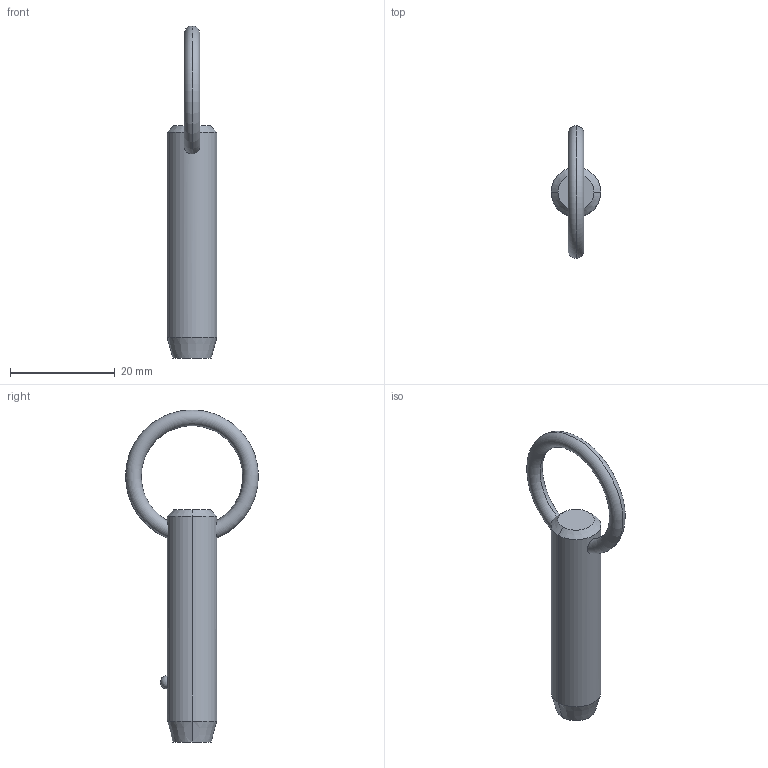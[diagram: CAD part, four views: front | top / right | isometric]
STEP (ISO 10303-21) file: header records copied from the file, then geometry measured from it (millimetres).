
FILE_DESCRIPTION (( 'STEP AP203' ), '1' );
FILE_NAME ('P1250.037-100.step', '2019-07-29T19:59:07', ( '' ), ( '' ), 'SwSTEP 2.0', 'SolidWorks 2017', '' );
FILE_SCHEMA (( 'CONFIG_CONTROL_DESIGN' ));
Length unit declared in the file: millimetre
Products named in the file (1): P1250.037-100
Bounding box: 9.52 x 25.39 x 63.5 mm (x, y, z)
Volume: 3515.1 mm3; surface area: 1971.6 mm2
Topology: 1 solids, 1 shells, 12 faces, 28 edges, 17 vertices
Faces by surface type: cone 4, torus 2, sphere 2, cylinder 2, plane 2
Entity records: 523 total; most frequent: CARTESIAN_POINT 190, DIRECTION 56, ORIENTED_EDGE 48, AXIS2_PLACEMENT_3D 25, EDGE_CURVE 24, EDGE_LOOP 15, VERTEX_POINT 15, CIRCLE 12
